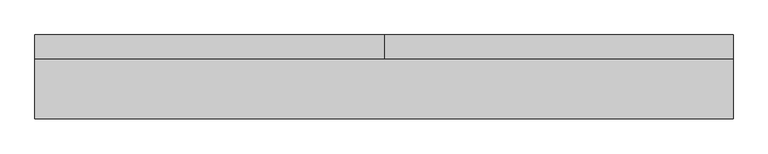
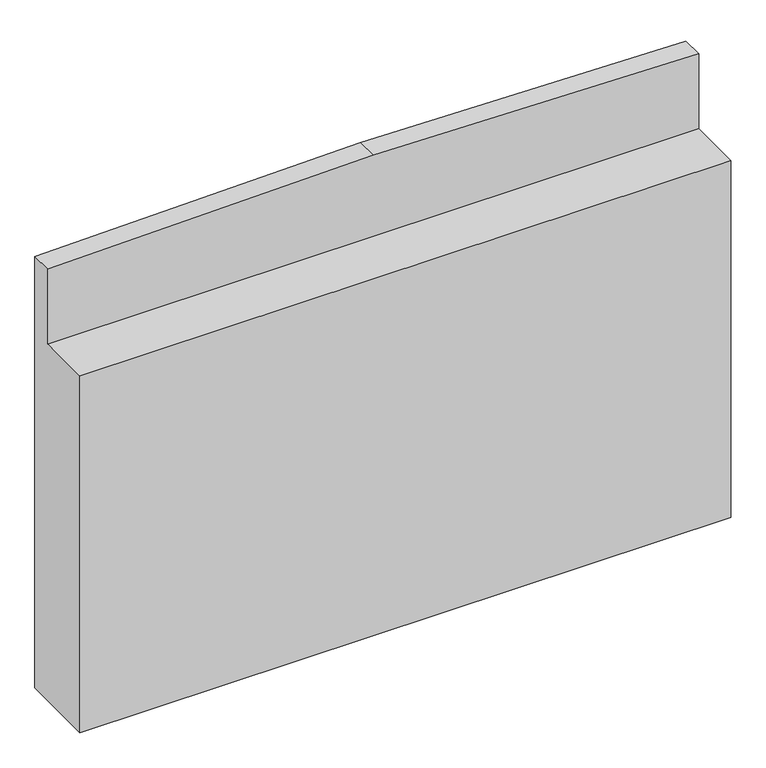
"""IFC4 building model written with IfcOpenShell, lengths in millimetres: proxy geometry, M_Abutment_basic_no_slope_no_foundation : M_Abutment_basic_no_slope_no_foundation."""

from ifc_helpers import new_model, si_unit, origin, place, context, project, spatial, faceted_brep, source, transform, mapped, element, save


def generic_models_a9e47605(model_context):
    return source(origin(), model_context, "Body", "Brep", [
        faceted_brep([(5840.0, 1000.0, -6768.4798124), (-5840.0, 1000.0, -6768.4798124), (-5840.0, 1000.0, 1420.031129), (0.0, 1000.0, 1536.799996), (5840.0, 1000.0, 1420.031129), (-5840.0, -400.0, -6768.4798124), (5840.0, -400.0, -6768.4798124), (-5840.0, -400.0, 0.0), (5840.0, -400.0, 0.0), (-5840.0, 600.0, 0.0), (-5840.0, 600.0, 1420.031129), (5840.0, 600.0, 1420.031129), (5840.0, 600.0, 0.0), (0.0, 600.0, 1536.799996)], [[[0, 1, 2, 3, 4]], [[5, 1, 0, 6]], [[7, 5, 6, 8]], [[1, 5, 7, 9, 10, 2]], [[6, 0, 4, 11, 12, 8]], [[9, 7, 8, 12]], [[13, 3, 2, 10]], [[3, 13, 11, 4]], [[9, 12, 11, 13, 10]]]),
    ])


if __name__ == "__main__":
    model = new_model("IFC4")
    model_context = context("Model", 3, world=origin())
    ifc_project = project(units=[si_unit("LENGTHUNIT", "METRE", prefix="MILLI")], contexts=[model_context])
    site = spatial("IfcSite", under=ifc_project)
    building = spatial("IfcBuilding", under=site)
    placement = place(None, origin())
    generic_models_shape = generic_models_a9e47605(model_context)
    element("IfcBuildingElementProxy", 1, Name="M_Abutment_basic_no_slope_no_foundation : M_Abutment_basic_no_slope_no_foundation", ObjectType="M_Abutment_basic_no_slope_no_foundation : M_Abutment_basic_no_slope_no_foundation", at=placement, inside=building, context=model_context, shape_type="MappedRepresentation", body=[
        mapped(generic_models_shape, transform((0.0, 0.0, 0.0), x_axis=(1.0, 0.0, 0.0), y_axis=(0.0, 1.0, 0.0), z_axis=(0.0, 0.0, 1.0))),
    ])
    save(model, "model.ifc")
